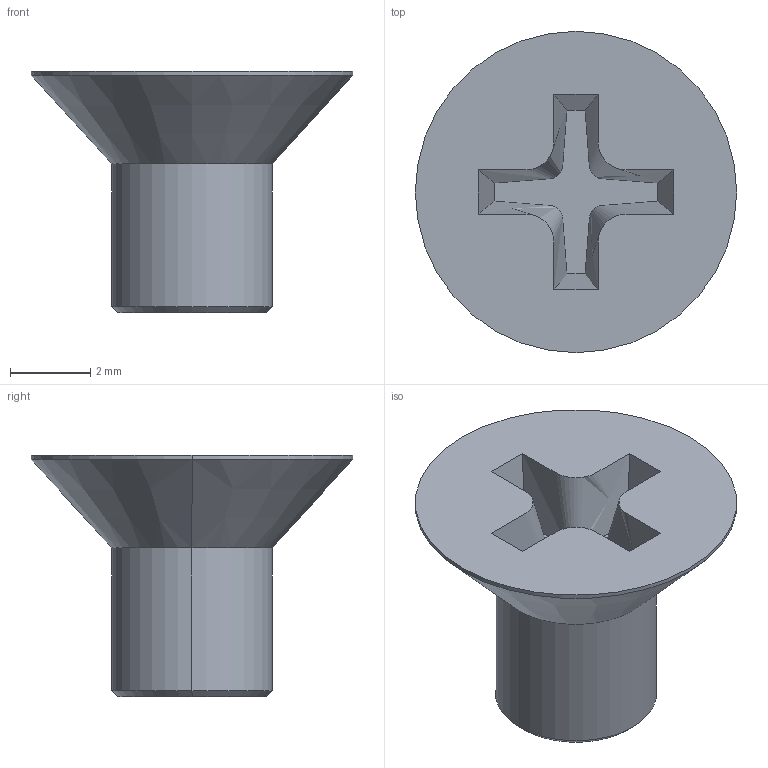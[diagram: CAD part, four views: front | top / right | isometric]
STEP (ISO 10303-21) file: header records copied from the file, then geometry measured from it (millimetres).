
FILE_DESCRIPTION (( 'STEP AP214' ), '1' );
FILE_NAME ('Flat Head SCREW M4 X6 MM.STEP', '2024-07-30T06:10:22', ( '' ), ( '' ), 'SwSTEP 2.0', 'SolidWorks 2023', '' );
FILE_SCHEMA (( 'AUTOMOTIVE_DESIGN' ));
Length unit declared in the file: millimetre
Products named in the file (1): Flat Head SCREW M4 X6 MM
Bounding box: 8 x 8 x 6 mm (x, y, z)
Volume: 103.2 mm3; surface area: 191.7 mm2
Topology: 1 solids, 1 shells, 19 faces, 58 edges, 42 vertices
Faces by surface type: plane 7, cone 4, cylinder 4, bspline 4
Entity records: 813 total; most frequent: CARTESIAN_POINT 252, ORIENTED_EDGE 116, DIRECTION 108, EDGE_CURVE 58, VERTEX_POINT 42, VECTOR 40, LINE 40, AXIS2_PLACEMENT_3D 34
